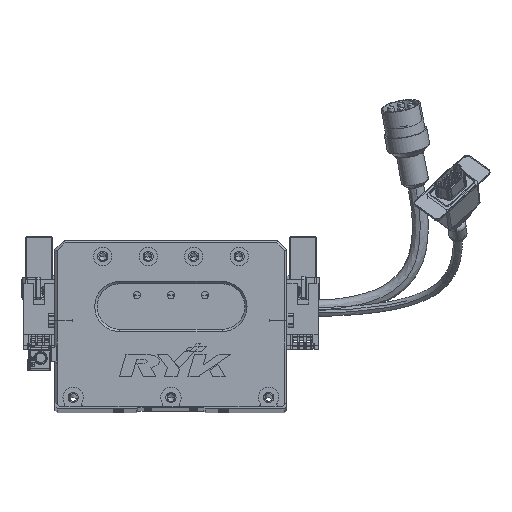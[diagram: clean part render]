
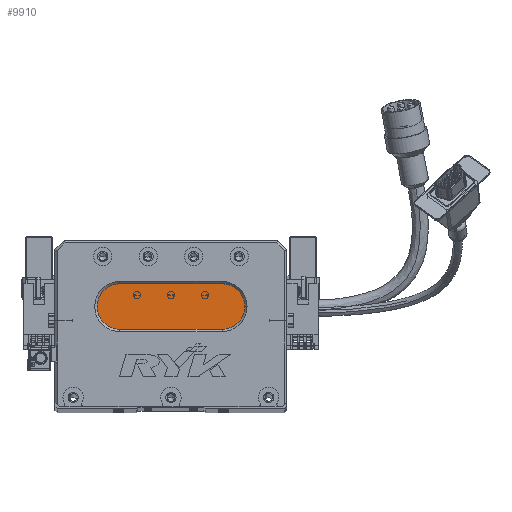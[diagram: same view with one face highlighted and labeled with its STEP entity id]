
A CAD part, top view. The second image highlights one B-rep face of the part: STEP entity #9910.
In plain terms, the highlighted planar face has unit normal (0, 0, 1) as drawn and (0, 0, -1) by its records, which use the part's own axes.
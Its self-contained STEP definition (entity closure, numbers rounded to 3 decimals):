
#1177 = CARTESIAN_POINT ( 'NONE',  ( 73.5, 54., 13. ) ) ;
#1574 = AXIS2_PLACEMENT_3D ( 'NONE', #60006, #49699, #34836 ) ;
#2823 = CIRCLE ( 'NONE', #29234, 10. ) ;
#3662 = VECTOR ( 'NONE', #20722, 1000. ) ;
#6381 = DIRECTION ( 'NONE',  ( 0., 0., -1. ) ) ;
#6810 = DIRECTION ( 'NONE',  ( -1., 0., 0. ) ) ;
#7265 = CIRCLE ( 'NONE', #14585, 10. ) ;
#9910 = ADVANCED_FACE ( 'NONE', ( #51037 ), #44706, .T. ) ;
#11733 = LINE ( 'NONE', #41779, #3662 ) ;
#12713 = VERTEX_POINT ( 'NONE', #38792 ) ;
#14585 = AXIS2_PLACEMENT_3D ( 'NONE', #38111, #42600, #58565 ) ;
#19338 = EDGE_CURVE ( 'NONE', #38767, #12713, #2823, .T. ) ;
#19985 = VECTOR ( 'NONE', #42736, 1000. ) ;
#20722 = DIRECTION ( 'NONE',  ( 1., 0., 0. ) ) ;
#21091 = EDGE_CURVE ( 'NONE', #52338, #25795, #44464, .T. ) ;
#25395 = ORIENTED_EDGE ( 'NONE', *, *, #19338, .T. ) ;
#25580 = DIRECTION ( 'NONE',  ( -1., 0., 0. ) ) ;
#25795 = VERTEX_POINT ( 'NONE', #42626 ) ;
#28746 = ORIENTED_EDGE ( 'NONE', *, *, #21091, .T. ) ;
#29234 = AXIS2_PLACEMENT_3D ( 'NONE', #40813, #61278, #25580 ) ;
#30653 = EDGE_CURVE ( 'NONE', #12713, #35582, #56949, .T. ) ;
#34836 = DIRECTION ( 'NONE',  ( -1., 0., 0. ) ) ;
#35582 = VERTEX_POINT ( 'NONE', #36190 ) ;
#36190 = CARTESIAN_POINT ( 'NONE',  ( 28.5, 34., 13. ) ) ;
#37563 = EDGE_CURVE ( 'NONE', #35582, #52338, #7265, .T. ) ;
#38111 = CARTESIAN_POINT ( 'NONE',  ( 28.5, 44., 13. ) ) ;
#38767 = VERTEX_POINT ( 'NONE', #1177 ) ;
#38792 = CARTESIAN_POINT ( 'NONE',  ( 73.5, 34., 13. ) ) ;
#38919 = CARTESIAN_POINT ( 'NONE',  ( 18.5, 44., 13. ) ) ;
#40813 = CARTESIAN_POINT ( 'NONE',  ( 73.5, 44., 13. ) ) ;
#41779 = CARTESIAN_POINT ( 'NONE',  ( 73.5, 54., 13. ) ) ;
#42600 = DIRECTION ( 'NONE',  ( 0., 0., -1. ) ) ;
#42626 = CARTESIAN_POINT ( 'NONE',  ( 28.5, 54., 13. ) ) ;
#42736 = DIRECTION ( 'NONE',  ( -1., 0., 0. ) ) ;
#42777 = ORIENTED_EDGE ( 'NONE', *, *, #30653, .T. ) ;
#44464 = CIRCLE ( 'NONE', #50409, 10. ) ;
#44706 = PLANE ( 'NONE',  #1574 ) ;
#45698 = ORIENTED_EDGE ( 'NONE', *, *, #50927, .T. ) ;
#47214 = EDGE_LOOP ( 'NONE', ( #25395, #42777, #66621, #28746, #45698 ) ) ;
#49699 = DIRECTION ( 'NONE',  ( 0., 0., -1. ) ) ;
#50409 = AXIS2_PLACEMENT_3D ( 'NONE', #52875, #6381, #6810 ) ;
#50927 = EDGE_CURVE ( 'NONE', #25795, #38767, #11733, .T. ) ;
#51037 = FACE_OUTER_BOUND ( 'NONE', #47214, .T. ) ;
#52338 = VERTEX_POINT ( 'NONE', #38919 ) ;
#52875 = CARTESIAN_POINT ( 'NONE',  ( 28.5, 44., 13. ) ) ;
#56949 = LINE ( 'NONE', #64555, #19985 ) ;
#58565 = DIRECTION ( 'NONE',  ( -1., 0., 0. ) ) ;
#60006 = CARTESIAN_POINT ( 'NONE',  ( 73.5, 44., 13. ) ) ;
#61278 = DIRECTION ( 'NONE',  ( 0., 0., -1. ) ) ;
#64555 = CARTESIAN_POINT ( 'NONE',  ( 73.5, 34., 13. ) ) ;
#66621 = ORIENTED_EDGE ( 'NONE', *, *, #37563, .T. ) ;
